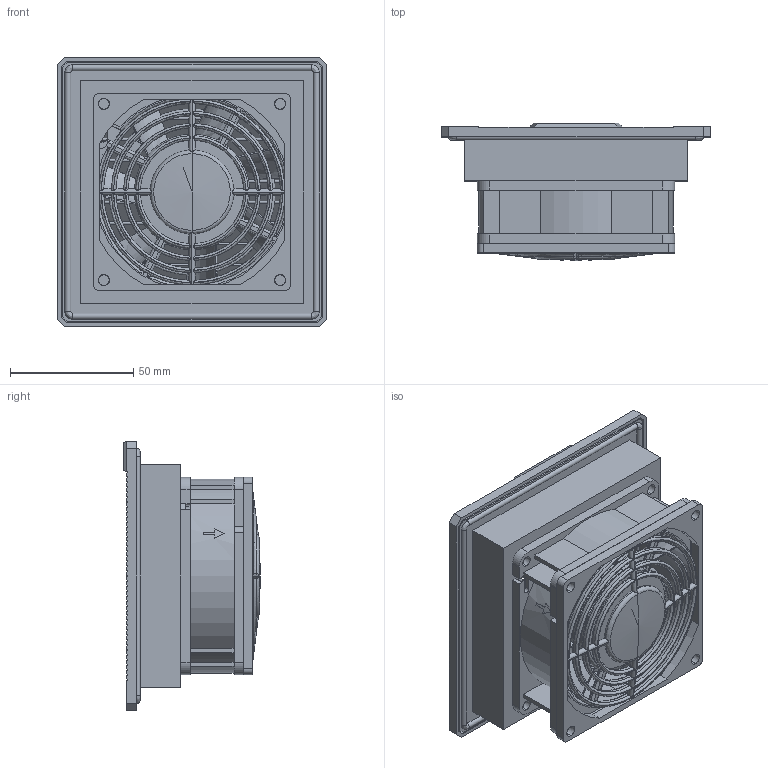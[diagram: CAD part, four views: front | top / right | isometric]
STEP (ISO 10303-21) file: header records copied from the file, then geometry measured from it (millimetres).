
FILE_DESCRIPTION (( 'STEP AP203' ), '1' );
FILE_NAME ('EF100-24R5_V1.step', '2013-02-07T13:37:06', ( '' ), ( '' ), 'SwSTEP 2.0', 'SolidWorks 2011', '' );
FILE_SCHEMA (( 'CONFIG_CONTROL_DESIGN' ));
Length unit declared in the file: millimetre
Products named in the file (5): Fan Serie 8400 N; housing PF1x_Standard; safty guard PF 1x_Standard; EF100-24R5_V1; cover PF1x_Standard
Assembly tree (4 placements, depth 2):
  EF100-24R5_V1
    cover PF1x_Standard
    housing PF1x_Standard
    Fan Serie 8400 N
    safty guard PF 1x_Standard
Bounding box: 109 x 55.5 x 109 mm (x, y, z)
Volume: 120223.8 mm3; surface area: 117316.6 mm2
Topology: 4 solids, 4 shells, 920 faces, 2697 edges, 1686 vertices
Faces by surface type: cylinder 446, plane 337, bspline 133, cone 4
Entity records: 40849 total; most frequent: CARTESIAN_POINT 17899, ORIENTED_EDGE 5356, DIRECTION 4010, EDGE_CURVE 2678, VERTEX_POINT 1686, AXIS2_PLACEMENT_3D 1501, LINE 1008, VECTOR 1008
